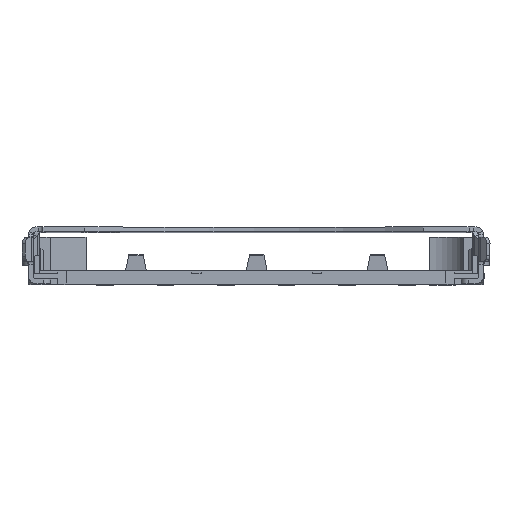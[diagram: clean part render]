
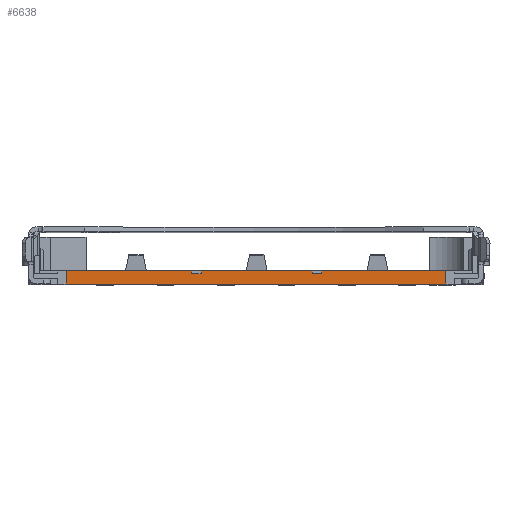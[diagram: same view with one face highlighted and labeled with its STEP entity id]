
A CAD part, top view. The second image highlights one B-rep face of the part: STEP entity #6638.
In plain terms, the highlighted planar face has unit normal (0, 0, 1).
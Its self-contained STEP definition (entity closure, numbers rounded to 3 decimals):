
#253 = ORIENTED_EDGE ( 'NONE', *, *, #21390, .T. ) ;
#1031 = VERTEX_POINT ( 'NONE', #37539 ) ;
#1169 = CARTESIAN_POINT ( 'NONE',  ( 1.17, 0.16, 0. ) ) ;
#1988 = CARTESIAN_POINT ( 'NONE',  ( 1.37, 0.1, 0. ) ) ;
#2526 = LINE ( 'NONE', #17710, #12319 ) ;
#2608 = VERTEX_POINT ( 'NONE', #10186 ) ;
#2678 = ORIENTED_EDGE ( 'NONE', *, *, #15785, .F. ) ;
#3701 = CARTESIAN_POINT ( 'NONE',  ( -4.01, -0.12, 0. ) ) ;
#4039 = CARTESIAN_POINT ( 'NONE',  ( 3.98, -0.12, 0. ) ) ;
#4907 = CARTESIAN_POINT ( 'NONE',  ( 1.37, 0.16, 0. ) ) ;
#5465 = CARTESIAN_POINT ( 'NONE',  ( -4.01, -0.12, 0. ) ) ;
#6357 = CARTESIAN_POINT ( 'NONE',  ( 3.98, 0.16, 0. ) ) ;
#6638 = ADVANCED_FACE ( 'NONE', ( #30055 ), #9847, .T. ) ;
#6757 = LINE ( 'NONE', #36395, #28939 ) ;
#7357 = CARTESIAN_POINT ( 'NONE',  ( 1.17, 0.1, 0. ) ) ;
#7674 = ORIENTED_EDGE ( 'NONE', *, *, #23803, .F. ) ;
#7960 = VERTEX_POINT ( 'NONE', #13326 ) ;
#8053 = ORIENTED_EDGE ( 'NONE', *, *, #16456, .F. ) ;
#8338 = DIRECTION ( 'NONE',  ( 1., 0., 0. ) ) ;
#8414 = VERTEX_POINT ( 'NONE', #1988 ) ;
#9777 = EDGE_CURVE ( 'NONE', #1031, #2608, #6757, .T. ) ;
#9847 = PLANE ( 'NONE',  #36750 ) ;
#10065 = CARTESIAN_POINT ( 'NONE',  ( 1.17, -6.397, 0. ) ) ;
#10186 = CARTESIAN_POINT ( 'NONE',  ( -1.37, 0.16, 0. ) ) ;
#10527 = CARTESIAN_POINT ( 'NONE',  ( 1.37, -6.397, 0. ) ) ;
#11373 = ORIENTED_EDGE ( 'NONE', *, *, #16850, .F. ) ;
#12319 = VECTOR ( 'NONE', #29630, 1000. ) ;
#13229 = CARTESIAN_POINT ( 'NONE',  ( -4.01, -0.12, 0. ) ) ;
#13326 = CARTESIAN_POINT ( 'NONE',  ( -4.01, 0.16, 0. ) ) ;
#14334 = LINE ( 'NONE', #5465, #25340 ) ;
#15258 = CARTESIAN_POINT ( 'NONE',  ( -4.01, -0.12, 0. ) ) ;
#15443 = DIRECTION ( 'NONE',  ( 0., 0., 1. ) ) ;
#15785 = EDGE_CURVE ( 'NONE', #7960, #2608, #20886, .T. ) ;
#15864 = CARTESIAN_POINT ( 'NONE',  ( -1.17, 0.16, 0. ) ) ;
#16355 = EDGE_CURVE ( 'NONE', #22887, #19202, #30263, .T. ) ;
#16456 = EDGE_CURVE ( 'NONE', #22887, #8414, #24107, .T. ) ;
#16850 = EDGE_CURVE ( 'NONE', #8414, #36289, #28217, .T. ) ;
#17710 = CARTESIAN_POINT ( 'NONE',  ( -1.17, -6.397, 0. ) ) ;
#17958 = LINE ( 'NONE', #15258, #20494 ) ;
#18834 = LINE ( 'NONE', #4039, #32045 ) ;
#18866 = EDGE_LOOP ( 'NONE', ( #11373, #8053, #37979, #38015, #7674, #20772, #20194, #2678, #36583, #253, #21937, #19103 ) ) ;
#19103 = ORIENTED_EDGE ( 'NONE', *, *, #36983, .F. ) ;
#19202 = VERTEX_POINT ( 'NONE', #1169 ) ;
#19443 = LINE ( 'NONE', #34081, #22162 ) ;
#19670 = LINE ( 'NONE', #26030, #20868 ) ;
#20194 = ORIENTED_EDGE ( 'NONE', *, *, #9777, .T. ) ;
#20287 = VECTOR ( 'NONE', #33103, 1000. ) ;
#20494 = VECTOR ( 'NONE', #36990, 1000. ) ;
#20772 = ORIENTED_EDGE ( 'NONE', *, *, #36838, .F. ) ;
#20846 = VERTEX_POINT ( 'NONE', #13229 ) ;
#20868 = VECTOR ( 'NONE', #8338, 1000. ) ;
#20886 = LINE ( 'NONE', #38049, #24775 ) ;
#20999 = LINE ( 'NONE', #32733, #20287 ) ;
#21390 = EDGE_CURVE ( 'NONE', #20846, #25817, #14334, .T. ) ;
#21599 = DIRECTION ( 'NONE',  ( 1., 0., 0. ) ) ;
#21664 = EDGE_CURVE ( 'NONE', #20846, #7960, #17958, .T. ) ;
#21792 = DIRECTION ( 'NONE',  ( 0., 1., 0. ) ) ;
#21937 = ORIENTED_EDGE ( 'NONE', *, *, #32305, .T. ) ;
#22162 = VECTOR ( 'NONE', #27537, 1000. ) ;
#22887 = VERTEX_POINT ( 'NONE', #7357 ) ;
#23255 = CARTESIAN_POINT ( 'NONE',  ( -1.17, 0.1, 0. ) ) ;
#23777 = DIRECTION ( 'NONE',  ( 1., 0., 0. ) ) ;
#23803 = EDGE_CURVE ( 'NONE', #30565, #28371, #2526, .T. ) ;
#24107 = LINE ( 'NONE', #33138, #34047 ) ;
#24449 = DIRECTION ( 'NONE',  ( 0., 1., 0. ) ) ;
#24775 = VECTOR ( 'NONE', #23777, 1000. ) ;
#24808 = VECTOR ( 'NONE', #21792, 1000. ) ;
#25340 = VECTOR ( 'NONE', #29497, 1000. ) ;
#25817 = VERTEX_POINT ( 'NONE', #33705 ) ;
#26030 = CARTESIAN_POINT ( 'NONE',  ( -1.37, 0.1, 0. ) ) ;
#26127 = VERTEX_POINT ( 'NONE', #6357 ) ;
#27177 = DIRECTION ( 'NONE',  ( 1., 0., 0. ) ) ;
#27537 = DIRECTION ( 'NONE',  ( 1., 0., 0. ) ) ;
#28217 = LINE ( 'NONE', #10527, #29173 ) ;
#28371 = VERTEX_POINT ( 'NONE', #15864 ) ;
#28939 = VECTOR ( 'NONE', #24449, 1000. ) ;
#29173 = VECTOR ( 'NONE', #33238, 1000. ) ;
#29497 = DIRECTION ( 'NONE',  ( 1., 0., 0. ) ) ;
#29630 = DIRECTION ( 'NONE',  ( 0., 1., 0. ) ) ;
#30055 = FACE_OUTER_BOUND ( 'NONE', #18866, .T. ) ;
#30263 = LINE ( 'NONE', #10065, #24808 ) ;
#30565 = VERTEX_POINT ( 'NONE', #23255 ) ;
#30570 = DIRECTION ( 'NONE',  ( 0., 1., 0. ) ) ;
#31854 = EDGE_CURVE ( 'NONE', #28371, #19202, #19443, .T. ) ;
#32045 = VECTOR ( 'NONE', #30570, 1000. ) ;
#32305 = EDGE_CURVE ( 'NONE', #25817, #26127, #18834, .T. ) ;
#32733 = CARTESIAN_POINT ( 'NONE',  ( -4.01, 0.16, 0. ) ) ;
#33103 = DIRECTION ( 'NONE',  ( 1., 0., 0. ) ) ;
#33138 = CARTESIAN_POINT ( 'NONE',  ( 1.17, 0.1, 0. ) ) ;
#33238 = DIRECTION ( 'NONE',  ( 0., 1., 0. ) ) ;
#33705 = CARTESIAN_POINT ( 'NONE',  ( 3.98, -0.12, 0. ) ) ;
#34047 = VECTOR ( 'NONE', #21599, 1000. ) ;
#34081 = CARTESIAN_POINT ( 'NONE',  ( -4.01, 0.16, 0. ) ) ;
#36289 = VERTEX_POINT ( 'NONE', #4907 ) ;
#36395 = CARTESIAN_POINT ( 'NONE',  ( -1.37, -6.397, 0. ) ) ;
#36583 = ORIENTED_EDGE ( 'NONE', *, *, #21664, .F. ) ;
#36750 = AXIS2_PLACEMENT_3D ( 'NONE', #3701, #15443, #27177 ) ;
#36838 = EDGE_CURVE ( 'NONE', #1031, #30565, #19670, .T. ) ;
#36983 = EDGE_CURVE ( 'NONE', #36289, #26127, #20999, .T. ) ;
#36990 = DIRECTION ( 'NONE',  ( 0., 1., 0. ) ) ;
#37539 = CARTESIAN_POINT ( 'NONE',  ( -1.37, 0.1, 0. ) ) ;
#37979 = ORIENTED_EDGE ( 'NONE', *, *, #16355, .T. ) ;
#38015 = ORIENTED_EDGE ( 'NONE', *, *, #31854, .F. ) ;
#38049 = CARTESIAN_POINT ( 'NONE',  ( -4.01, 0.16, 0. ) ) ;
